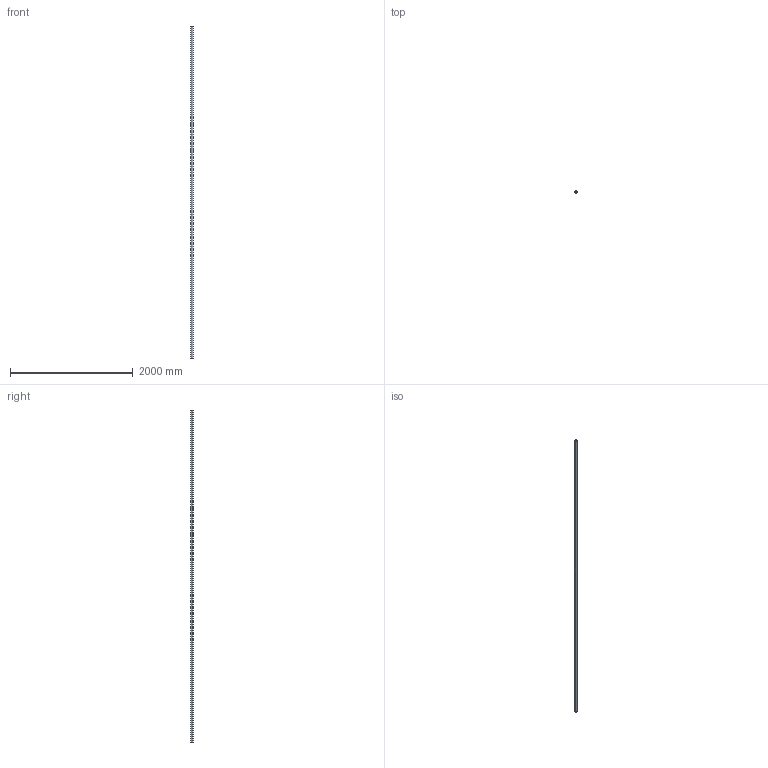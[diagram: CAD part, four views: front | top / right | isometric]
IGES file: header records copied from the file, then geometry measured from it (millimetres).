
Start section: SolidWorks IGES file using analytic representation for surfaces
Global section: file name: C:\Users\IanO\Desktop\L1771_v2\L1771.40_v2\L1771.40_v2_20230705_IGES\L1771.40-5400.igs; native system: SolidWorks 2019; preprocessor: SolidWorks 2019; author: IanO; date: 230705.163122; units: millimetre
Bounding box: 40 x 40 x 5400 mm (x, y, z)
Surface area: 1154874.6 mm2 (no closed solid volume)
Topology: 0 solids, 0 shells, 6 faces, 272 edges, 272 vertices
Faces by surface type: revolution 4, bspline 2
